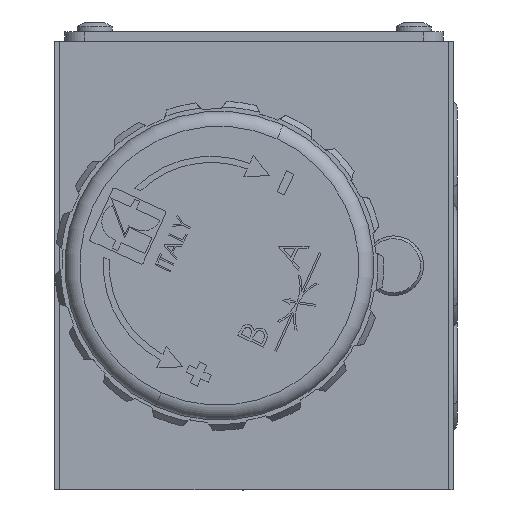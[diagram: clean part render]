
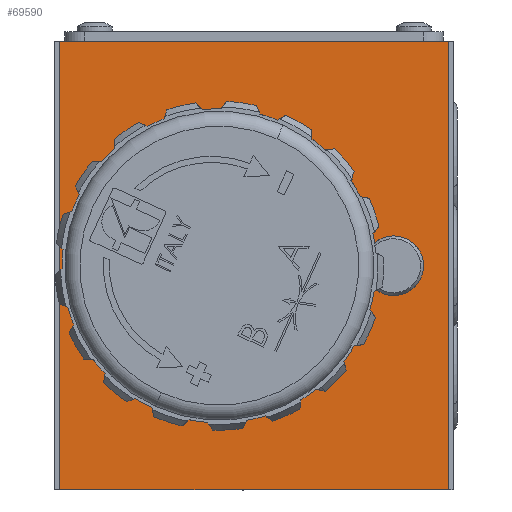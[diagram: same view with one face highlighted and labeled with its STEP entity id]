
A CAD part, left-side view. The second image highlights one B-rep face of the part: STEP entity #69590.
In plain terms, the highlighted planar face has unit normal (-1, 0, 0) as drawn and (0, 0, 1) by its records, which use the part's own axes.
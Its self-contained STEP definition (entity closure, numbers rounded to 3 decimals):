
#645 = VECTOR ( 'NONE', #77628, 1000. ) ;
#1401 = DIRECTION ( 'NONE',  ( 1., 0., 0. ) ) ;
#3584 = CIRCLE ( 'NONE', #39987, 3. ) ;
#3902 = LINE ( 'NONE', #65447, #86457 ) ;
#5499 = FACE_BOUND ( 'NONE', #42891, .T. ) ;
#7163 = DIRECTION ( 'NONE',  ( 0., 1., 0. ) ) ;
#7232 = DIRECTION ( 'NONE',  ( 0., 0., 1. ) ) ;
#7345 = AXIS2_PLACEMENT_3D ( 'NONE', #46509, #102439, #54537 ) ;
#7754 = CARTESIAN_POINT ( 'NONE',  ( -14., 3.5, 46.5 ) ) ;
#8975 = CARTESIAN_POINT ( 'NONE',  ( -22.5, -20., 46.5 ) ) ;
#11664 = CARTESIAN_POINT ( 'NONE',  ( 0., 3.5, 46.5 ) ) ;
#13600 = AXIS2_PLACEMENT_3D ( 'NONE', #11664, #67536, #19679 ) ;
#18056 = EDGE_CURVE ( 'NONE', #44774, #86503, #3584, .T. ) ;
#19679 = DIRECTION ( 'NONE',  ( 1., 0., 0. ) ) ;
#20058 = AXIS2_PLACEMENT_3D ( 'NONE', #97140, #49219, #1401 ) ;
#21643 = VERTEX_POINT ( 'NONE', #53766 ) ;
#23593 = VECTOR ( 'NONE', #37703, 1000. ) ;
#24176 = FACE_OUTER_BOUND ( 'NONE', #27894, .T. ) ;
#25587 = DIRECTION ( 'NONE',  ( 0., -1., 0. ) ) ;
#27894 = EDGE_LOOP ( 'NONE', ( #99440, #86865, #66147, #84897 ) ) ;
#27970 = EDGE_CURVE ( 'NONE', #21643, #66589, #80627, .T. ) ;
#28802 = ORIENTED_EDGE ( 'NONE', *, *, #89090, .F. ) ;
#29667 = CARTESIAN_POINT ( 'NONE',  ( -22.5, 19.5, 46.5 ) ) ;
#30851 = AXIS2_PLACEMENT_3D ( 'NONE', #8975, #97011, #49090 ) ;
#37703 = DIRECTION ( 'NONE',  ( 1., 0., 0. ) ) ;
#39987 = AXIS2_PLACEMENT_3D ( 'NONE', #55047, #7232, #63139 ) ;
#40636 = LINE ( 'NONE', #69556, #645 ) ;
#41108 = PLANE ( 'NONE',  #30851 ) ;
#42891 = EDGE_LOOP ( 'NONE', ( #28802, #70935 ) ) ;
#43771 = CIRCLE ( 'NONE', #13600, 14. ) ;
#43959 = VERTEX_POINT ( 'NONE', #52225 ) ;
#44774 = VERTEX_POINT ( 'NONE', #82514 ) ;
#45471 = FACE_BOUND ( 'NONE', #86965, .T. ) ;
#46509 = CARTESIAN_POINT ( 'NONE',  ( 0., 3.5, 46.5 ) ) ;
#49090 = DIRECTION ( 'NONE',  ( 1., 0., 0. ) ) ;
#49219 = DIRECTION ( 'NONE',  ( 0., 0., 1. ) ) ;
#52225 = CARTESIAN_POINT ( 'NONE',  ( 14., 3.5, 46.5 ) ) ;
#53766 = CARTESIAN_POINT ( 'NONE',  ( 22.5, -19.5, 46.5 ) ) ;
#54537 = DIRECTION ( 'NONE',  ( 1., 0., 0. ) ) ;
#55047 = CARTESIAN_POINT ( 'NONE',  ( 0., -14., 46.5 ) ) ;
#59328 = VECTOR ( 'NONE', #7163, 1000. ) ;
#62149 = VERTEX_POINT ( 'NONE', #88966 ) ;
#63076 = CARTESIAN_POINT ( 'NONE',  ( 22.5, 20., 46.5 ) ) ;
#63139 = DIRECTION ( 'NONE',  ( 1., 0., 0. ) ) ;
#63546 = VERTEX_POINT ( 'NONE', #7754 ) ;
#65447 = CARTESIAN_POINT ( 'NONE',  ( -22.5, 20., 46.5 ) ) ;
#66147 = ORIENTED_EDGE ( 'NONE', *, *, #66920, .F. ) ;
#66589 = VERTEX_POINT ( 'NONE', #76252 ) ;
#66920 = EDGE_CURVE ( 'NONE', #62149, #66589, #87385, .T. ) ;
#67536 = DIRECTION ( 'NONE',  ( 0., 0., 1. ) ) ;
#69556 = CARTESIAN_POINT ( 'NONE',  ( 22.5, -19.5, 46.5 ) ) ;
#69590 = ADVANCED_FACE ( 'NONE', ( #5499, #45471, #24176 ), #41108, .T. ) ;
#70857 = EDGE_CURVE ( 'NONE', #43959, #63546, #43771, .T. ) ;
#70935 = ORIENTED_EDGE ( 'NONE', *, *, #18056, .F. ) ;
#74415 = CIRCLE ( 'NONE', #20058, 3. ) ;
#76252 = CARTESIAN_POINT ( 'NONE',  ( 22.5, 19.5, 46.5 ) ) ;
#77174 = EDGE_CURVE ( 'NONE', #21643, #85259, #40636, .T. ) ;
#77628 = DIRECTION ( 'NONE',  ( -1., 0., 0. ) ) ;
#80627 = LINE ( 'NONE', #63076, #59328 ) ;
#82514 = CARTESIAN_POINT ( 'NONE',  ( -3., -14., 46.5 ) ) ;
#83240 = CIRCLE ( 'NONE', #7345, 14. ) ;
#84897 = ORIENTED_EDGE ( 'NONE', *, *, #90310, .T. ) ;
#85259 = VERTEX_POINT ( 'NONE', #98110 ) ;
#86457 = VECTOR ( 'NONE', #25587, 1000. ) ;
#86503 = VERTEX_POINT ( 'NONE', #102747 ) ;
#86865 = ORIENTED_EDGE ( 'NONE', *, *, #27970, .T. ) ;
#86965 = EDGE_LOOP ( 'NONE', ( #89084, #90173 ) ) ;
#87385 = LINE ( 'NONE', #29667, #23593 ) ;
#88908 = EDGE_CURVE ( 'NONE', #63546, #43959, #83240, .T. ) ;
#88966 = CARTESIAN_POINT ( 'NONE',  ( -22.5, 19.5, 46.5 ) ) ;
#89084 = ORIENTED_EDGE ( 'NONE', *, *, #70857, .F. ) ;
#89090 = EDGE_CURVE ( 'NONE', #86503, #44774, #74415, .T. ) ;
#90173 = ORIENTED_EDGE ( 'NONE', *, *, #88908, .F. ) ;
#90310 = EDGE_CURVE ( 'NONE', #62149, #85259, #3902, .T. ) ;
#97011 = DIRECTION ( 'NONE',  ( 0., 0., 1. ) ) ;
#97140 = CARTESIAN_POINT ( 'NONE',  ( 0., -14., 46.5 ) ) ;
#98110 = CARTESIAN_POINT ( 'NONE',  ( -22.5, -19.5, 46.5 ) ) ;
#99440 = ORIENTED_EDGE ( 'NONE', *, *, #77174, .F. ) ;
#102439 = DIRECTION ( 'NONE',  ( 0., 0., 1. ) ) ;
#102747 = CARTESIAN_POINT ( 'NONE',  ( 3., -14., 46.5 ) ) ;
